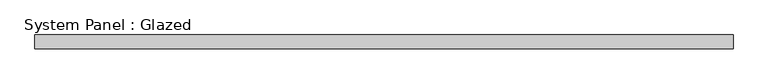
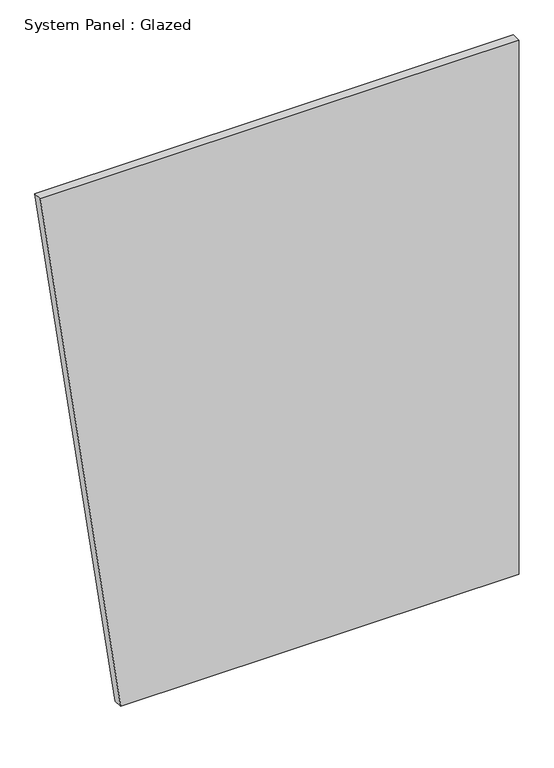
"""IFC4 building model written with IfcOpenShell, lengths in millimetres: plate geometry, System Panel : Glazed."""

from ifc_helpers import new_model, si_unit, frame, origin, place, context, project, spatial, polyline, outline, extrude, source, transform, mapped, element, save


def system_panel_glazed_5c92a166(model_context):
    return source(origin(), model_context, "Body", "SweptSolid", [
        extrude(outline(polyline([(0.0, -429.4081961), (0.0, 646.4535512), (1524.0, 646.4535512), (1524.0, -646.4535512), (0.0, -429.4081961)])), frame((0.0, 19.05, 0.0), z_axis=(0.0, 1.0, 0.0), x_axis=(0.0, 0.0, 1.0)), (0.0, 0.0, 1.0), 25.4),
    ])


if __name__ == "__main__":
    model = new_model("IFC4")
    model_context = context("Model", 3, world=origin())
    ifc_project = project(units=[si_unit("LENGTHUNIT", "METRE", prefix="MILLI")], contexts=[model_context])
    site = spatial("IfcSite", under=ifc_project)
    building = spatial("IfcBuilding", under=site)
    placement = place(None, origin())
    system_panel_glazed_shape = system_panel_glazed_5c92a166(model_context)
    element("IfcPlate", 1, ObjectType="System Panel : Glazed", at=placement, inside=building, context=model_context, shape_type="MappedRepresentation", body=[
        mapped(system_panel_glazed_shape, transform((0.0, 0.0, 0.0), x_axis=(1.0, 0.0, 0.0), y_axis=(0.0, 1.0, 0.0), z_axis=(0.0, 0.0, 1.0))),
    ])
    save(model, "model.ifc")
